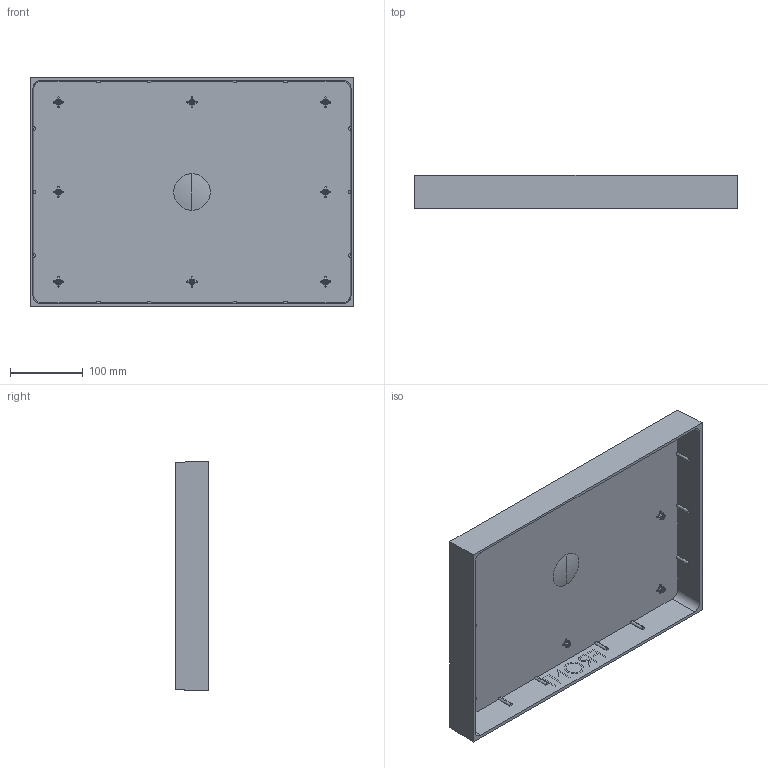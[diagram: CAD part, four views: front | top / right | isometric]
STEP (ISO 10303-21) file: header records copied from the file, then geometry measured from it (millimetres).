
FILE_DESCRIPTION (( 'STEP AP203' ), '1' );
FILE_NAME ('lid inside type 5000.STEP', '2023-03-13T09:23:09', ( '' ), ( '' ), 'SwSTEP 2.0', 'SolidWorks 2022', '' );
FILE_SCHEMA (( 'CONFIG_CONTROL_DESIGN' ));
Length unit declared in the file: millimetre
Products named in the file (1): lid inside type 5000
Bounding box: 445 x 46 x 315 mm (x, y, z)
Volume: 815298.3 mm3; surface area: 412597 mm2
Topology: 1 solids, 1 shells, 924 faces, 2198 edges, 1235 vertices
Faces by surface type: bspline 301, plane 211, cylinder 164, torus 114, cone 70, sphere 64
Entity records: 32387 total; most frequent: CARTESIAN_POINT 13669, ORIENTED_EDGE 4264, DIRECTION 3590, EDGE_CURVE 2132, AXIS2_PLACEMENT_3D 1472, VERTEX_POINT 1235, EDGE_LOOP 949, FACE_OUTER_BOUND 924
